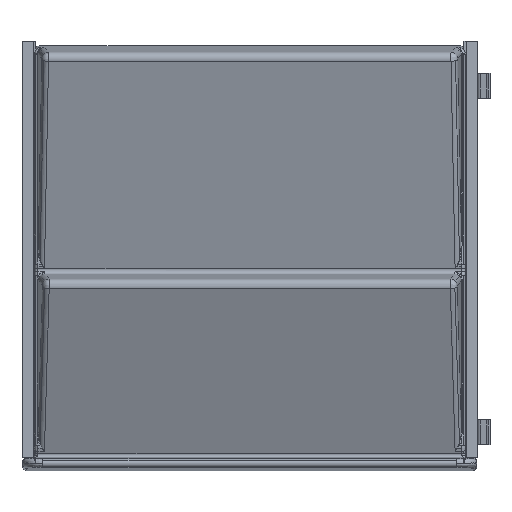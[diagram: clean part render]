
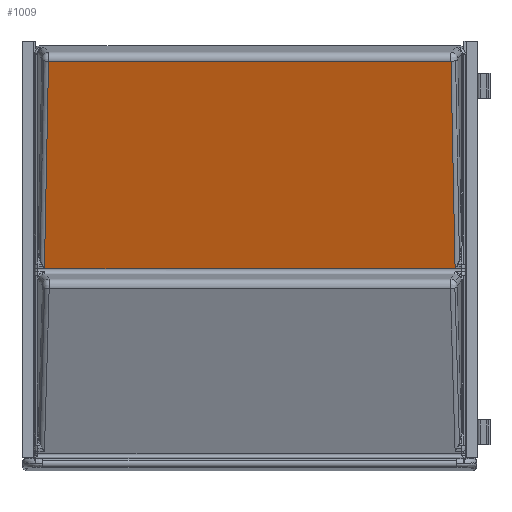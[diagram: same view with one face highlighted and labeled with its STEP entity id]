
A CAD part, top view. The second image highlights one B-rep face of the part: STEP entity #1009.
In plain terms, the highlighted planar face has unit normal (0, -0.272, 0.962).
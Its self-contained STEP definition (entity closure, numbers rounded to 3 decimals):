
#1009=ADVANCED_FACE('',(#2260),#2261,.T.);
#2260=FACE_OUTER_BOUND('',#17558,.T.);
#2261=PLANE('',#17559);
#17558=EDGE_LOOP('',(#25018,#25019,#25020,#25021,#25022,#25023,#25024,#25025));
#17559=AXIS2_PLACEMENT_3D('',#25026,#25027,#25028);
#25018=ORIENTED_EDGE('',*,*,#28021,.F.);
#25019=ORIENTED_EDGE('',*,*,#28285,.T.);
#25020=ORIENTED_EDGE('',*,*,#28287,.F.);
#25021=ORIENTED_EDGE('',*,*,#28288,.F.);
#25022=ORIENTED_EDGE('',*,*,#27980,.F.);
#25023=ORIENTED_EDGE('',*,*,#28289,.F.);
#25024=ORIENTED_EDGE('',*,*,#27968,.F.);
#25025=ORIENTED_EDGE('',*,*,#27966,.F.);
#25026=CARTESIAN_POINT('',(273.5,475.91,110.179));
#25027=DIRECTION('',(0.0,-0.272,0.962));
#25028=DIRECTION('',(0.0,-0.962,-0.272));
#27966=EDGE_CURVE('',#30132,#29950,#30134,.T.);
#27968=EDGE_CURVE('',#29950,#30136,#30137,.T.);
#27980=EDGE_CURVE('',#30150,#30141,#30152,.T.);
#28021=EDGE_CURVE('',#30199,#30132,#30201,.T.);
#28285=EDGE_CURVE('',#30199,#30559,#30561,.T.);
#28287=EDGE_CURVE('',#30563,#30559,#30564,.T.);
#28288=EDGE_CURVE('',#30141,#30563,#30565,.T.);
#28289=EDGE_CURVE('',#30136,#30150,#30566,.T.);
#29950=VERTEX_POINT('',#33162);
#30132=VERTEX_POINT('',#33794);
#30134=LINE('',#33796,#33797);
#30136=VERTEX_POINT('',#33799);
#30137=LINE('',#33800,#33801);
#30141=VERTEX_POINT('',#33805);
#30150=VERTEX_POINT('',#33839);
#30152=LINE('',#33841,#33842);
#30199=VERTEX_POINT('',#33934);
#30201=LINE('',#33936,#33937);
#30559=VERTEX_POINT('',#35300);
#30561=LINE('',#35302,#35303);
#30563=VERTEX_POINT('',#35305);
#30564=LINE('',#35306,#35307);
#30565=LINE('',#35308,#35309);
#30566=LINE('',#35310,#35311);
#33162=CARTESIAN_POINT('',(26.928,227.038,39.744));
#33794=CARTESIAN_POINT('',(19.076,227.038,39.744));
#33796=CARTESIAN_POINT('',(143.5,227.038,39.744));
#33797=VECTOR('',#37837,10.0);
#33799=CARTESIAN_POINT('',(31.854,475.91,110.179));
#33800=CARTESIAN_POINT('',(29.71,367.575,79.518));
#33801=VECTOR('',#37838,10.0);
#33805=CARTESIAN_POINT('',(520.072,227.038,39.744));
#33839=CARTESIAN_POINT('',(515.146,475.91,110.179));
#33841=CARTESIAN_POINT('',(517.29,367.575,79.518));
#33842=VECTOR('',#37857,10.0);
#33934=CARTESIAN_POINT('',(19.072,226.843,39.689));
#33936=CARTESIAN_POINT('',(21.807,365.049,78.803));
#33937=VECTOR('',#37922,10.0);
#35300=CARTESIAN_POINT('',(527.928,226.843,39.689));
#35302=CARTESIAN_POINT('',(273.5,226.843,39.689));
#35303=VECTOR('',#38189,10.0);
#35305=CARTESIAN_POINT('',(527.924,227.038,39.744));
#35306=CARTESIAN_POINT('',(525.193,365.049,78.803));
#35307=VECTOR('',#38190,10.0);
#35308=CARTESIAN_POINT('',(403.5,227.038,39.744));
#35309=VECTOR('',#38191,10.0);
#35310=CARTESIAN_POINT('',(273.5,475.91,110.179));
#35311=VECTOR('',#38192,10.0);
#37837=DIRECTION('',(1.0,0.0,0.0));
#37838=DIRECTION('',(0.019,0.962,0.272));
#37857=DIRECTION('',(0.019,-0.962,-0.272));
#37922=DIRECTION('',(0.019,0.962,0.272));
#38189=DIRECTION('',(1.0,0.0,0.0));
#38190=DIRECTION('',(0.019,-0.962,-0.272));
#38191=DIRECTION('',(1.0,0.0,0.0));
#38192=DIRECTION('',(1.0,0.0,0.0));
